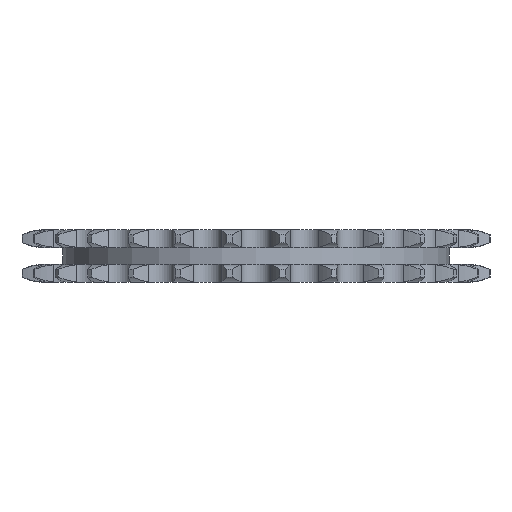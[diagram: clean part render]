
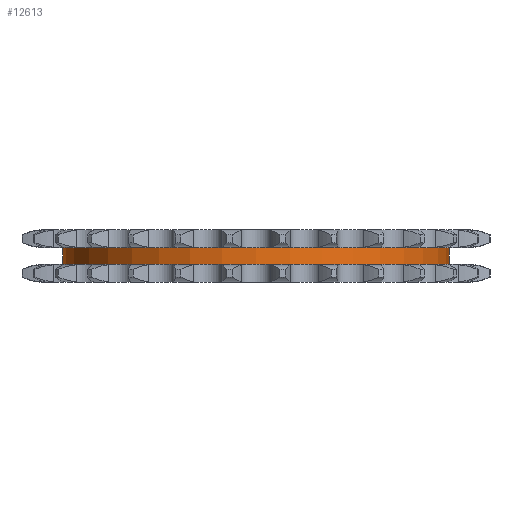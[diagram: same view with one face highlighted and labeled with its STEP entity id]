
A CAD part, left-side view. The second image highlights one B-rep face of the part: STEP entity #12613.
In plain terms, the highlighted cylindrical face has radius 30.726 mm (diameter 61.451 mm), a partial arc.
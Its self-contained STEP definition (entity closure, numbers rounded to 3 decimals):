
#1610=DIRECTION('',(0.,0.,-1.));
#1611=VECTOR('',#1610,2.7);
#1612=CARTESIAN_POINT('',(0.,30.726,1.35));
#1613=LINE('',#1612,#1611);
#1617=CARTESIAN_POINT('',(0.,0.,1.35));
#1618=DIRECTION('',(0.,0.,1.));
#1619=DIRECTION('',(0.,1.,0.));
#1620=AXIS2_PLACEMENT_3D('',#1617,#1618,#1619);
#1625=DIRECTION('',(0.,0.,-1.));
#1626=VECTOR('',#1625,2.7);
#1627=CARTESIAN_POINT('',(0.,-30.726,1.35));
#1628=LINE('',#1627,#1626);
#1632=CARTESIAN_POINT('',(0.,0.,-1.35));
#1633=DIRECTION('',(0.,0.,1.));
#1634=DIRECTION('',(0.,1.,0.));
#1635=AXIS2_PLACEMENT_3D('',#1632,#1633,#1634);
#10185=CARTESIAN_POINT('',(0.,30.726,1.35));
#10186=CARTESIAN_POINT('',(0.,30.726,-1.35));
#10187=VERTEX_POINT('',#10185);
#10188=VERTEX_POINT('',#10186);
#10189=CARTESIAN_POINT('',(0.,-30.726,1.35));
#10190=CARTESIAN_POINT('',(0.,-30.726,-1.35));
#10191=VERTEX_POINT('',#10189);
#10192=VERTEX_POINT('',#10190);
#12601=CARTESIAN_POINT('',(0.,0.,1.485));
#12602=DIRECTION('',(0.,0.,-1.));
#12603=DIRECTION('',(0.,-1.,0.));
#12604=AXIS2_PLACEMENT_3D('',#12601,#12602,#12603);
#12605=CYLINDRICAL_SURFACE('',#12604,30.726);
#12606=ORIENTED_EDGE('',*,*,#12591,.F.);
#12607=ORIENTED_EDGE('',*,*,#12581,.T.);
#12608=ORIENTED_EDGE('',*,*,#12595,.T.);
#12610=ORIENTED_EDGE('',*,*,#12609,.F.);
#12611=EDGE_LOOP('',(#12606,#12607,#12608,#12610));
#12612=FACE_OUTER_BOUND('',#12611,.F.);
#12613=ADVANCED_FACE('',(#12612),#12605,.T.);
#1621=CIRCLE('',#1620,30.726);
#1636=CIRCLE('',#1635,30.726);
#12581=EDGE_CURVE('',#10187,#10191,#1621,.T.);
#12591=EDGE_CURVE('',#10187,#10188,#1613,.T.);
#12595=EDGE_CURVE('',#10191,#10192,#1628,.T.);
#12609=EDGE_CURVE('',#10188,#10192,#1636,.T.);
